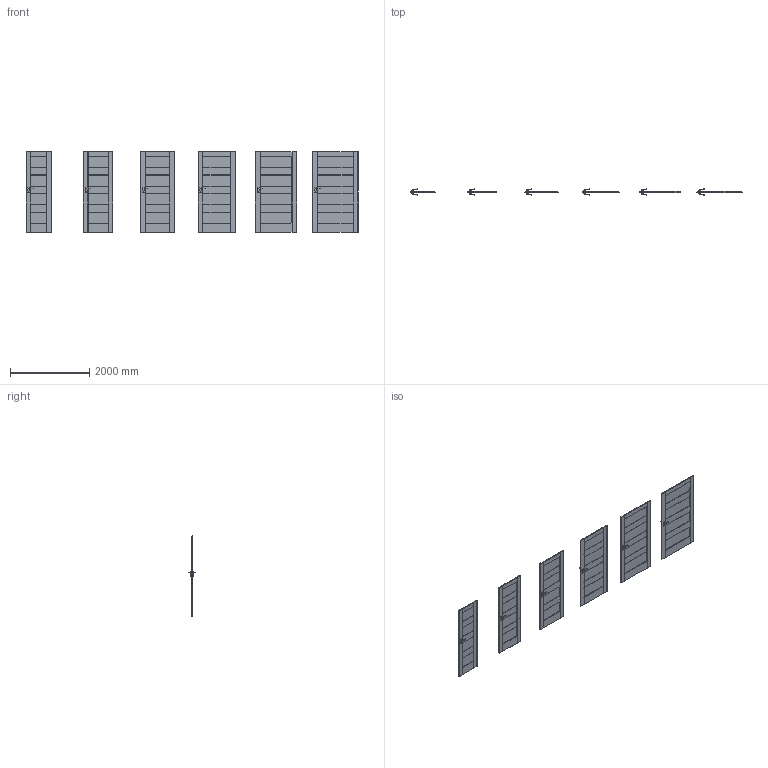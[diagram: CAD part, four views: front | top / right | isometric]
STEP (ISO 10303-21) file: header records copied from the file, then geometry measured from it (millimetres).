
FILE_DESCRIPTION(/* description */ (''),/* implementation_level */ '2;1');
FILE_NAME(/* name */ '049783_A_2-Skrzydło Verte Home model L_ polska norma _PN__ przylgowe..stp',/* time_stamp */ '2024-03-20T10:51:47+01:00',/* author */ (''),/* organization */ (''),/* preprocessor_version */ 'ST-DEVELOPER v16',/* originating_system */ 'SIEMENS PLM Software NX 11.0',/* authorisation */ '');
FILE_SCHEMA (('AUTOMOTIVE_DESIGN { 1 0 10303 214 3 1 1 1 }'));
Products named in the file (1): bkni07C41804n11m
Bounding box: 8394 x 153.27 x 2030.02 mm (x, y, z)
Volume: 199763043.7 mm3; surface area: 24394107.6 mm2
Topology: 30 solids, 30 shells, 1806 faces, 4682 edges, 2816 vertices
Faces by surface type: plane 894, cylinder 540, bspline 204, sphere 168
Entity records: 60745 total; most frequent: CARTESIAN_POINT 18097, ORIENTED_EDGE 9028, DIRECTION 8588, EDGE_CURVE 4514, AXIS2_PLACEMENT_3D 2899, VERTEX_POINT 2816, LINE 2790, VECTOR 2790
